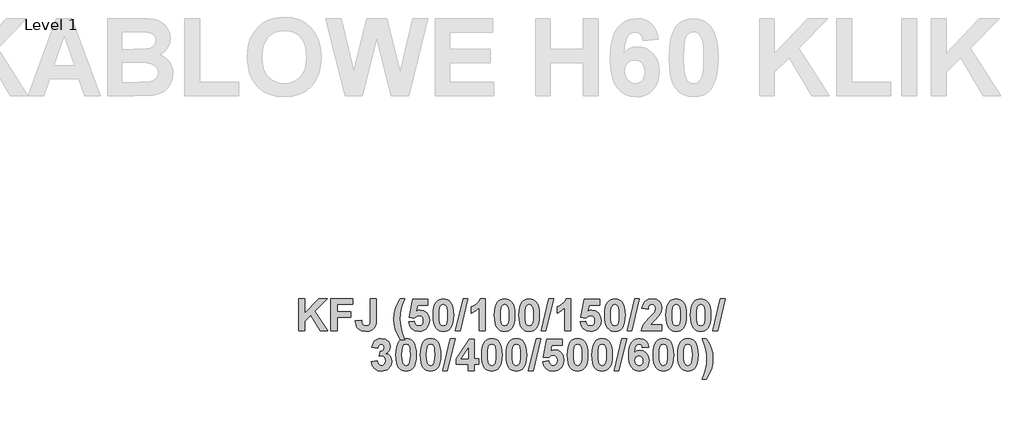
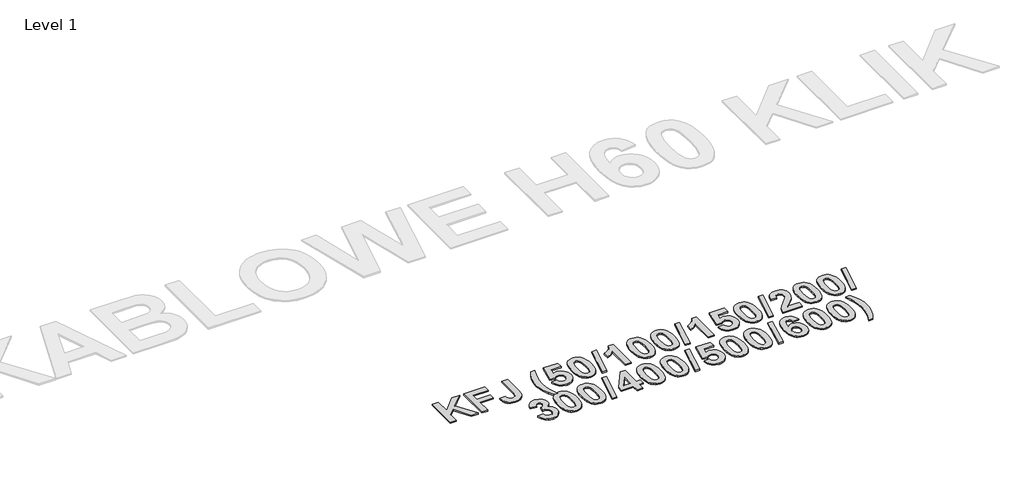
# One storey, part 12 of 42: 1 proxy.
"""IFC4 building model written with IfcOpenShell, lengths in millimetres."""

from ifc_helpers import new_model, si_unit, origin, origin_with_axes, place, context, project, spatial, polyline, outline, extrude, element, save

model = new_model("IFC4")

# Units and contexts
model_context = context("Model", 3, world=origin())
ifc_project = project(units=[si_unit("LENGTHUNIT", "METRE", prefix="MILLI")], contexts=[model_context])

# Site, building, storey
site = spatial("IfcSite", under=ifc_project)
building = spatial("IfcBuilding", under=site)
storey = spatial("IfcBuildingStorey", under=building, Name="Level 1", Elevation=0.0)

# Proxy
placement = place(None, origin())
element("IfcBuildingElementProxy", 1, Name="300mm Arial 2", ObjectType="300mm Arial 2", at=placement, inside=storey, context=model_context, shape_type="SweptSolid", body=[
    extrude(outline(polyline([(-23474.3228423, 4366.2760859), (-23474.3228423, 4621.3409359), (-23425.7390614, 4621.3409359), (-23425.7390614, 4505.0688143), (-23316.299034, 4621.3409359), (-23249.6228554, 4621.3409359), (-23346.157816, 4523.9203335), (-23245.574207, 4366.2760859), (-23302.381805, 4366.2760859), (-23377.7246216, 4491.9739671), (-23425.7390614, 4443.4534463), (-23425.7390614, 4366.2760859), (-23474.3228423, 4366.2760859)])), origin_with_axes(), (0.0, 0.0, 1.0), 10.0),
    extrude(outline(polyline([(-23219.2579923, 4366.2760859), (-23219.2579923, 4621.3409359), (-23045.1661106, 4621.3409359), (-23045.1661106, 4576.8058034), (-23170.6742114, 4576.8058034), (-23170.6742114, 4520.1247256), (-23061.3607042, 4520.1247256), (-23061.3607042, 4475.5895931), (-23170.6742114, 4475.5895931), (-23170.6742114, 4366.2760859), (-23219.2579923, 4366.2760859)])), origin_with_axes(), (0.0, 0.0, 1.0), 10.0),
    extrude(outline(polyline([(-22907.5120646, 4621.3409359), (-22858.9282836, 4621.3409359), (-22858.9282836, 4460.0908609), (-22860.3516366, 4432.0982527), (-22864.6216954, 4411.3805597), (-22875.3126576, 4391.358728), (-22892.2031127, 4375.7018455), (-22915.3879509, 4365.5960395), (-22944.9620624, 4362.2274375), (-22978.932753, 4367.6282712), (-22992.5969413, 4374.3793134), (-23004.0470251, 4383.8307724), (-23013.109039, 4395.8956656), (-23019.6090175, 4410.4870103), (-23024.9228685, 4447.2490542), (-22976.3390876, 4451.2977026), (-22974.1091679, 4432.6675939), (-22969.317213, 4420.4267584), (-22957.8987593, 4410.1786172), (-22941.7357957, 4406.7625701), (-22925.754705, 4409.2139001), (-22915.2614307, 4416.5678904), (-22909.4494061, 4431.6238017), (-22907.5120646, 4457.1808948), (-22907.5120646, 4621.3409359)])), origin_with_axes(), (0.0, 0.0, 1.0), 10.0),
    extrude(outline(polyline([(-22636.2526209, 4297.4490629), (-22668.6418082, 4297.4490629), (-22691.3126578, 4337.1210729), (-22707.8314596, 4378.327141), (-22717.9135431, 4419.6280993), (-22721.2742376, 4459.5847798), (-22717.162329, 4506.9824333), (-22704.8266034, 4551.7547913), (-22688.6320098, 4588.0344767), (-22668.6418082, 4621.3409359), (-22636.2526209, 4621.3409359), (-22653.8152149, 4574.1014328), (-22664.8778304, 4534.4847754), (-22670.7373001, 4497.6041188), (-22672.6904566, 4458.5726177), (-22668.0092069, 4401.92317), (-22655.1674002, 4346.8552256), (-22636.2526209, 4297.4490629)])), origin_with_axes(), (0.0, 0.0, 1.0), 10.0),
    extrude(outline(polyline([(-22603.8634336, 4438.0763351), (-22559.3283011, 4443.2004058), (-22555.1847625, 4428.1286795), (-22546.9293153, 4416.5678904), (-22535.8271622, 4409.2139001), (-22523.1435059, 4406.7625701), (-22508.9495139, 4409.364143), (-22497.1119618, 4417.1688617), (-22489.1174627, 4430.2083563), (-22486.4526297, 4448.5142568), (-22488.9276823, 4465.6735675), (-22496.3528402, 4477.9302179), (-22507.7475714, 4485.2842082), (-22522.1313438, 4487.7355383), (-22540.9512329, 4482.6747278), (-22557.6835377, 4467.4922962), (-22599.8147852, 4473.7550493), (-22571.4742463, 4617.2922875), (-22450.0147939, 4617.2922875), (-22450.0147939, 4568.7085066), (-22532.1897047, 4568.7085066), (-22541.9950251, 4522.3388302), (-22526.5121079, 4529.7877107), (-22510.68126, 4532.2706708), (-22482.5621316, 4526.5219064), (-22459.0609927, 4509.2756131), (-22443.1668847, 4482.8566007), (-22437.8688487, 4449.589679), (-22442.2812429, 4420.6639839), (-22455.5184254, 4394.9961856), (-22468.7358391, 4380.6598583), (-22484.2859701, 4370.4196245), (-22502.1688186, 4364.2754843), (-22522.3843843, 4362.2274375), (-22553.3897562, 4367.3673232), (-22578.0849301, 4382.7869802), (-22595.2995933, 4406.8890903), (-22603.8634336, 4438.0763351)])), origin_with_axes(), (0.0, 0.0, 1.0), 10.0),
    extrude(outline(polyline([(-22328.5553416, 4621.3409359), (-22311.4237072, 4619.6961725), (-22296.2768595, 4614.7618823), (-22283.1147984, 4606.5380652), (-22271.9375239, 4595.0247212), (-22261.2821455, 4576.8967398), (-22253.671161, 4553.6367802), (-22249.1045702, 4525.2448425), (-22247.5823733, 4491.7209266), (-22249.1124777, 4458.2286407), (-22253.702791, 4429.8050729), (-22261.3533132, 4406.4502232), (-22272.0640442, 4388.1640914), (-22283.185966, 4376.8168053), (-22296.3084896, 4368.711601), (-22311.4316147, 4363.8484784), (-22328.5553416, 4362.2274375), (-22345.8629182, 4364.0066287), (-22361.4110723, 4369.3442023), (-22375.1998041, 4378.2401583), (-22387.2291135, 4390.6944967), (-22396.9850119, 4407.7154258), (-22403.9535107, 4430.311154), (-22408.13461, 4458.4816813), (-22409.5283098, 4492.2270076), (-22407.9982054, 4525.5532356), (-22403.4078921, 4553.8581907), (-22395.7573699, 4577.1418728), (-22385.0466389, 4595.404282), (-22373.9247171, 4606.7515681), (-22360.8021936, 4614.8567724), (-22345.6790684, 4619.7198951), (-22328.5553416, 4621.3409359)]), holes=[polyline([(-22328.5553416, 4576.8058034), (-22344.7499352, 4571.4603223), (-22351.0759484, 4563.9877192), (-22355.7571981, 4552.2608724), (-22359.6476962, 4528.1113172), (-22360.9445289, 4491.7209266), (-22359.7900315, 4455.8128945), (-22356.3265393, 4433.2369351), (-22351.0996709, 4419.9839375), (-22344.655045, 4412.044791), (-22328.5553416, 4406.7625701), (-22312.3607479, 4412.1080512), (-22306.0347348, 4419.5806542), (-22301.353485, 4431.3075011), (-22297.462987, 4455.330536), (-22296.1661543, 4491.7209266), (-22297.3206517, 4527.5894211), (-22300.7841439, 4550.173288), (-22306.0110122, 4563.4658232), (-22312.4556381, 4571.4603223), (-22328.5553416, 4576.8058034)])]), origin_with_axes(), (0.0, 0.0, 1.0), 10.0),
    extrude(outline(polyline([(-22232.2734215, 4366.2760859), (-22171.5436953, 4621.3409359), (-22134.2202178, 4621.3409359), (-22194.9499439, 4366.2760859), (-22232.2734215, 4366.2760859)])), origin_with_axes(), (0.0, 0.0, 1.0), 10.0),
    extrude(outline(polyline([(-21996.5661717, 4366.2760859), (-22045.1499527, 4366.2760859), (-22045.1499527, 4548.5917848), (-22073.205821, 4524.7110851), (-22105.8796789, 4507.9787804), (-22105.8796789, 4556.5625613), (-22086.4113734, 4565.6482977), (-22065.3299346, 4580.3800008), (-22046.8737913, 4599.3975778), (-22035.2813722, 4621.3409359), (-21996.5661717, 4621.3409359), (-21996.5661717, 4366.2760859)])), origin_with_axes(), (0.0, 0.0, 1.0), 10.0),
    extrude(outline(polyline([(-21842.7175321, 4621.3409359), (-21825.5858977, 4619.6961725), (-21810.43905, 4614.7618823), (-21797.2769889, 4606.5380652), (-21786.0997144, 4595.0247212), (-21775.444336, 4576.8967398), (-21767.8333515, 4553.6367802), (-21763.2667607, 4525.2448425), (-21761.7445638, 4491.7209266), (-21763.2746682, 4458.2286407), (-21767.8649815, 4429.8050729), (-21775.5155037, 4406.4502232), (-21786.2262347, 4388.1640914), (-21797.3481565, 4376.8168053), (-21810.4706801, 4368.711601), (-21825.5938052, 4363.8484784), (-21842.7175321, 4362.2274375), (-21860.0251086, 4364.0066287), (-21875.5732628, 4369.3442023), (-21889.3619946, 4378.2401583), (-21901.391304, 4390.6944967), (-21911.1472024, 4407.7154258), (-21918.1157012, 4430.311154), (-21922.2968005, 4458.4816813), (-21923.6905003, 4492.2270076), (-21922.1603959, 4525.5532356), (-21917.5700826, 4553.8581907), (-21909.9195604, 4577.1418728), (-21899.2088294, 4595.404282), (-21888.0869076, 4606.7515681), (-21874.9643841, 4614.8567724), (-21859.8412589, 4619.7198951), (-21842.7175321, 4621.3409359)]), holes=[polyline([(-21842.7175321, 4576.8058034), (-21858.9121257, 4571.4603223), (-21865.2381389, 4563.9877192), (-21869.9193886, 4552.2608724), (-21873.8098867, 4528.1113172), (-21875.1067194, 4491.7209266), (-21873.952222, 4455.8128945), (-21870.4887298, 4433.2369351), (-21865.2618614, 4419.9839375), (-21858.8172355, 4412.044791), (-21842.7175321, 4406.7625701), (-21826.5229384, 4412.1080512), (-21820.1969253, 4419.5806542), (-21815.5156755, 4431.3075011), (-21811.6251775, 4455.330536), (-21810.3283448, 4491.7209266), (-21811.4828422, 4527.5894211), (-21814.9463344, 4550.173288), (-21820.1732027, 4563.4658232), (-21826.6178286, 4571.4603223), (-21842.7175321, 4576.8058034)])]), origin_with_axes(), (0.0, 0.0, 1.0), 10.0),
    extrude(outline(polyline([(-21648.3824083, 4621.3409359), (-21631.2507739, 4619.6961725), (-21616.1039262, 4614.7618823), (-21602.9418651, 4606.5380652), (-21591.7645906, 4595.0247212), (-21581.1092122, 4576.8967398), (-21573.4982277, 4553.6367802), (-21568.9316369, 4525.2448425), (-21567.40944, 4491.7209266), (-21568.9395444, 4458.2286407), (-21573.5298577, 4429.8050729), (-21581.1803799, 4406.4502232), (-21591.8911109, 4388.1640914), (-21603.0130327, 4376.8168053), (-21616.1355563, 4368.711601), (-21631.2586814, 4363.8484784), (-21648.3824083, 4362.2274375), (-21665.6899848, 4364.0066287), (-21681.238139, 4369.3442023), (-21695.0268708, 4378.2401583), (-21707.0561802, 4390.6944967), (-21716.8120786, 4407.7154258), (-21723.7805774, 4430.311154), (-21727.9616767, 4458.4816813), (-21729.3553765, 4492.2270076), (-21727.8252721, 4525.5532356), (-21723.2349588, 4553.8581907), (-21715.5844366, 4577.1418728), (-21704.8737056, 4595.404282), (-21693.7517838, 4606.7515681), (-21680.6292603, 4614.8567724), (-21665.5061351, 4619.7198951), (-21648.3824083, 4621.3409359)]), holes=[polyline([(-21648.3824083, 4576.8058034), (-21664.5770019, 4571.4603223), (-21670.9030151, 4563.9877192), (-21675.5842648, 4552.2608724), (-21679.4747629, 4528.1113172), (-21680.7715956, 4491.7209266), (-21679.6170982, 4455.8128945), (-21676.153606, 4433.2369351), (-21670.9267376, 4419.9839375), (-21664.4821117, 4412.044791), (-21648.3824083, 4406.7625701), (-21632.1878146, 4412.1080512), (-21625.8618015, 4419.5806542), (-21621.1805517, 4431.3075011), (-21617.2900537, 4455.330536), (-21615.993221, 4491.7209266), (-21617.1477184, 4527.5894211), (-21620.6112106, 4550.173288), (-21625.8380789, 4563.4658232), (-21632.2827048, 4571.4603223), (-21648.3824083, 4576.8058034)])]), origin_with_axes(), (0.0, 0.0, 1.0), 10.0),
    extrude(outline(polyline([(-21552.1004882, 4366.2760859), (-21491.370762, 4621.3409359), (-21454.0472845, 4621.3409359), (-21514.7770106, 4366.2760859), (-21552.1004882, 4366.2760859)])), origin_with_axes(), (0.0, 0.0, 1.0), 10.0),
    extrude(outline(polyline([(-21316.3932384, 4366.2760859), (-21364.9770194, 4366.2760859), (-21364.9770194, 4548.5917848), (-21393.0328877, 4524.7110851), (-21425.7067456, 4507.9787804), (-21425.7067456, 4556.5625613), (-21406.2384401, 4565.6482977), (-21385.1570013, 4580.3800008), (-21366.700858, 4599.3975778), (-21355.1084389, 4621.3409359), (-21316.3932384, 4621.3409359), (-21316.3932384, 4366.2760859)])), origin_with_axes(), (0.0, 0.0, 1.0), 10.0),
    extrude(outline(polyline([(-21243.517567, 4438.0763351), (-21198.9824345, 4443.2004058), (-21194.8388959, 4428.1286795), (-21186.5834487, 4416.5678904), (-21175.4812956, 4409.2139001), (-21162.7976393, 4406.7625701), (-21148.6036473, 4409.364143), (-21136.7660952, 4417.1688617), (-21128.7715961, 4430.2083563), (-21126.106763, 4448.5142568), (-21128.5818157, 4465.6735675), (-21136.0069736, 4477.9302179), (-21147.4017048, 4485.2842082), (-21161.7854772, 4487.7355383), (-21180.6053663, 4482.6747278), (-21197.3376711, 4467.4922962), (-21239.4689186, 4473.7550493), (-21211.1283797, 4617.2922875), (-21089.6689273, 4617.2922875), (-21089.6689273, 4568.7085066), (-21171.8438381, 4568.7085066), (-21181.6491585, 4522.3388302), (-21166.1662413, 4529.7877107), (-21150.3353934, 4532.2706708), (-21122.216265, 4526.5219064), (-21098.7151261, 4509.2756131), (-21082.8210181, 4482.8566007), (-21077.5229821, 4449.589679), (-21081.9353763, 4420.6639839), (-21095.1725588, 4394.9961856), (-21108.3899725, 4380.6598583), (-21123.9401035, 4370.4196245), (-21141.8229519, 4364.2754843), (-21162.0385177, 4362.2274375), (-21193.0438896, 4367.3673232), (-21217.7390634, 4382.7869802), (-21234.9537267, 4406.8890903), (-21243.517567, 4438.0763351)])), origin_with_axes(), (0.0, 0.0, 1.0), 10.0),
    extrude(outline(polyline([(-20968.209475, 4621.3409359), (-20951.0778406, 4619.6961725), (-20935.9309929, 4614.7618823), (-20922.7689318, 4606.5380652), (-20911.5916573, 4595.0247212), (-20900.9362789, 4576.8967398), (-20893.3252944, 4553.6367802), (-20888.7587036, 4525.2448425), (-20887.2365067, 4491.7209266), (-20888.7666111, 4458.2286407), (-20893.3569244, 4429.8050729), (-20901.0074466, 4406.4502232), (-20911.7181776, 4388.1640914), (-20922.8400994, 4376.8168053), (-20935.9626229, 4368.711601), (-20951.0857481, 4363.8484784), (-20968.209475, 4362.2274375), (-20985.5170515, 4364.0066287), (-21001.0652057, 4369.3442023), (-21014.8539375, 4378.2401583), (-21026.8832469, 4390.6944967), (-21036.6391453, 4407.7154258), (-21043.6076441, 4430.311154), (-21047.7887434, 4458.4816813), (-21049.1824432, 4492.2270076), (-21047.6523388, 4525.5532356), (-21043.0620255, 4553.8581907), (-21035.4115033, 4577.1418728), (-21024.7007723, 4595.404282), (-21013.5788505, 4606.7515681), (-21000.456327, 4614.8567724), (-20985.3332018, 4619.7198951), (-20968.209475, 4621.3409359)]), holes=[polyline([(-20968.209475, 4576.8058034), (-20984.4040686, 4571.4603223), (-20990.7300817, 4563.9877192), (-20995.4113315, 4552.2608724), (-20999.3018296, 4528.1113172), (-21000.5986623, 4491.7209266), (-20999.4441649, 4455.8128945), (-20995.9806727, 4433.2369351), (-20990.7538043, 4419.9839375), (-20984.3091784, 4412.044791), (-20968.209475, 4406.7625701), (-20952.0148813, 4412.1080512), (-20945.6888682, 4419.5806542), (-20941.0076184, 4431.3075011), (-20937.1171203, 4455.330536), (-20935.8202877, 4491.7209266), (-20936.9747851, 4527.5894211), (-20940.4382772, 4550.173288), (-20945.6651456, 4563.4658232), (-20952.1097715, 4571.4603223), (-20968.209475, 4576.8058034)])]), origin_with_axes(), (0.0, 0.0, 1.0), 10.0),
    extrude(outline(polyline([(-20871.9275549, 4366.2760859), (-20811.1978287, 4621.3409359), (-20773.8743512, 4621.3409359), (-20834.6040773, 4366.2760859), (-20871.9275549, 4366.2760859)])), origin_with_axes(), (0.0, 0.0, 1.0), 10.0),
    extrude(outline(polyline([(-20595.733821, 4414.8598669), (-20595.733821, 4366.2760859), (-20757.6797575, 4366.2760859), (-20752.5082418, 4390.7814793), (-20742.1810253, 4413.942595), (-20722.9973904, 4440.1243819), (-20691.2566195, 4473.6917891), (-20653.6801014, 4514.4313138), (-20646.6582268, 4529.1392943), (-20644.317602, 4543.6574945), (-20646.2865735, 4557.8040414), (-20652.1934883, 4568.2340556), (-20661.5638953, 4574.6628664), (-20673.9233435, 4576.8058034), (-20686.195809, 4574.6944965), (-20695.6848287, 4568.3605758), (-20702.074102, 4557.13981), (-20705.0473281, 4540.3679677), (-20753.6311091, 4544.7961769), (-20745.0277312, 4579.9450874), (-20737.4048854, 4593.1842468), (-20727.5679349, 4603.5332089), (-20702.9439288, 4616.8890042), (-20672.8479212, 4621.3409359), (-20640.7117745, 4616.3512931), (-20616.2933637, 4601.3823644), (-20600.8737067, 4578.9961854), (-20595.733821, 4551.7547913), (-20601.3639727, 4519.6186446), (-20619.2033298, 4487.6722782), (-20649.4100425, 4455.7891719), (-20677.1496102, 4428.1444945), (-20686.2590691, 4414.8598669), (-20595.733821, 4414.8598669)])), origin_with_axes(), (0.0, 0.0, 1.0), 10.0),
    extrude(outline(polyline([(-20482.3716655, 4621.3409359), (-20465.2400311, 4619.6961725), (-20450.0931834, 4614.7618823), (-20436.9311223, 4606.5380652), (-20425.7538478, 4595.0247212), (-20415.0984694, 4576.8967398), (-20407.4874849, 4553.6367802), (-20402.9208941, 4525.2448425), (-20401.3986972, 4491.7209266), (-20402.9288016, 4458.2286407), (-20407.5191149, 4429.8050729), (-20415.1696371, 4406.4502232), (-20425.8803681, 4388.1640914), (-20437.0022899, 4376.8168053), (-20450.1248134, 4368.711601), (-20465.2479386, 4363.8484784), (-20482.3716655, 4362.2274375), (-20499.679242, 4364.0066287), (-20515.2273962, 4369.3442023), (-20529.016128, 4378.2401583), (-20541.0454374, 4390.6944967), (-20550.8013358, 4407.7154258), (-20557.7698346, 4430.311154), (-20561.9509339, 4458.4816813), (-20563.3446337, 4492.2270076), (-20561.8145293, 4525.5532356), (-20557.224216, 4553.8581907), (-20549.5736938, 4577.1418728), (-20538.8629628, 4595.404282), (-20527.741041, 4606.7515681), (-20514.6185175, 4614.8567724), (-20499.4953923, 4619.7198951), (-20482.3716655, 4621.3409359)]), holes=[polyline([(-20482.3716655, 4576.8058034), (-20498.5662591, 4571.4603223), (-20504.8922722, 4563.9877192), (-20509.573522, 4552.2608724), (-20513.4640201, 4528.1113172), (-20514.7608528, 4491.7209266), (-20513.6063554, 4455.8128945), (-20510.1428632, 4433.2369351), (-20504.9159948, 4419.9839375), (-20498.4713689, 4412.044791), (-20482.3716655, 4406.7625701), (-20466.1770718, 4412.1080512), (-20459.8510587, 4419.5806542), (-20455.1698089, 4431.3075011), (-20451.2793108, 4455.330536), (-20449.9824782, 4491.7209266), (-20451.1369755, 4527.5894211), (-20454.6004677, 4550.173288), (-20459.8273361, 4563.4658232), (-20466.271962, 4571.4603223), (-20482.3716655, 4576.8058034)])]), origin_with_axes(), (0.0, 0.0, 1.0), 10.0),
    extrude(outline(polyline([(-20288.0365416, 4621.3409359), (-20270.9049073, 4619.6961725), (-20255.7580596, 4614.7618823), (-20242.5959985, 4606.5380652), (-20231.418724, 4595.0247212), (-20220.7633456, 4576.8967398), (-20213.1523611, 4553.6367802), (-20208.5857703, 4525.2448425), (-20207.0635734, 4491.7209266), (-20208.5936778, 4458.2286407), (-20213.1839911, 4429.8050729), (-20220.8345133, 4406.4502232), (-20231.5452443, 4388.1640914), (-20242.6671661, 4376.8168053), (-20255.7896896, 4368.711601), (-20270.9128148, 4363.8484784), (-20288.0365416, 4362.2274375), (-20305.3441182, 4364.0066287), (-20320.8922724, 4369.3442023), (-20334.6810042, 4378.2401583), (-20346.7103136, 4390.6944967), (-20356.466212, 4407.7154258), (-20363.4347108, 4430.311154), (-20367.6158101, 4458.4816813), (-20369.0095099, 4492.2270076), (-20367.4794055, 4525.5532356), (-20362.8890922, 4553.8581907), (-20355.23857, 4577.1418728), (-20344.527839, 4595.404282), (-20333.4059172, 4606.7515681), (-20320.2833937, 4614.8567724), (-20305.1602685, 4619.7198951), (-20288.0365416, 4621.3409359)]), holes=[polyline([(-20288.0365416, 4576.8058034), (-20304.2311353, 4571.4603223), (-20310.5571484, 4563.9877192), (-20315.2383982, 4552.2608724), (-20319.1288963, 4528.1113172), (-20320.4257289, 4491.7209266), (-20319.2712316, 4455.8128945), (-20315.8077394, 4433.2369351), (-20310.580871, 4419.9839375), (-20304.1362451, 4412.044791), (-20288.0365416, 4406.7625701), (-20271.841948, 4412.1080512), (-20265.5159349, 4419.5806542), (-20260.8346851, 4431.3075011), (-20256.944187, 4455.330536), (-20255.6473543, 4491.7209266), (-20256.8018517, 4527.5894211), (-20260.2653439, 4550.173288), (-20265.4922123, 4563.4658232), (-20271.9368382, 4571.4603223), (-20288.0365416, 4576.8058034)])]), origin_with_axes(), (0.0, 0.0, 1.0), 10.0),
    extrude(outline(polyline([(-20191.7546216, 4366.2760859), (-20131.0248954, 4621.3409359), (-20093.7014178, 4621.3409359), (-20154.431144, 4366.2760859), (-20191.7546216, 4366.2760859)])), origin_with_axes(), (0.0, 0.0, 1.0), 10.0),
    extrude(outline(polyline([(-22899.4147677, 4122.7918795), (-22850.8309868, 4128.4220312), (-22847.082824, 4112.7967787), (-22839.886984, 4101.3466949), (-22830.0342186, 4094.3248203), (-22818.3152792, 4091.9841955), (-22805.7423281, 4094.6648435), (-22795.3518515, 4102.7067877), (-22788.377422, 4115.2876464), (-22786.0526122, 4131.5850377), (-22788.1797341, 4147.0046948), (-22794.5610999, 4158.8501544), (-22804.010582, 4166.3939251), (-22815.342053, 4168.9085153), (-22834.6363931, 4165.3026878), (-22830.3979643, 4205.346351), (-22816.5677181, 4207.0860046), (-22806.4540046, 4213.3171276), (-22800.2624192, 4223.1857081), (-22798.1985574, 4235.8377344), (-22799.7405231, 4246.5840492), (-22804.3664202, 4254.910664), (-22811.5543527, 4260.2482376), (-22820.7824243, 4262.0274288), (-22830.1686463, 4259.963567), (-22838.0840703, 4253.7719816), (-22843.8486498, 4243.610823), (-22846.7823384, 4229.6382415), (-22895.3661193, 4236.9131566), (-22889.8071353, 4258.6509193), (-22881.9866015, 4275.5334668), (-22871.2640092, 4288.4464412), (-22856.9988496, 4298.2754841), (-22840.0055968, 4304.490792), (-22821.098725, 4306.5625613), (-22790.4491913, 4300.8217044), (-22777.6627372, 4293.6456332), (-22766.5684917, 4283.5991336), (-22753.8532053, 4263.577302), (-22749.6147765, 4241.0883253), (-22751.8881874, 4225.1428184), (-22758.7084204, 4210.8974275), (-22770.0754752, 4198.3521527), (-22785.989352, 4187.5069939), (-22766.1256708, 4179.9553157), (-22750.6901987, 4166.6627806), (-22740.7741731, 4148.799701), (-22737.4688312, 4127.5363893), (-22743.3283009, 4096.7682429), (-22760.9067099, 4070.8869416), (-22773.3432564, 4060.6328697), (-22787.2150171, 4053.3085326), (-22819.2641812, 4047.4490629), (-22849.5262466, 4052.6601162), (-22874.1423452, 4068.2932762), (-22891.3570085, 4092.3400337), (-22899.4147677, 4122.7918795)])), origin_with_axes(), (0.0, 0.0, 1.0), 10.0),
    extrude(outline(polyline([(-22624.1066757, 4306.5625613), (-22606.9750413, 4304.9177979), (-22591.8281936, 4299.9835076), (-22578.6661325, 4291.7596906), (-22567.488858, 4280.2463466), (-22556.8334796, 4262.1183652), (-22549.2224951, 4238.8584056), (-22544.6559043, 4210.4664679), (-22543.1337074, 4176.942552), (-22544.6638119, 4143.4502661), (-22549.2541251, 4115.0266983), (-22556.9046473, 4091.6718486), (-22567.6153783, 4073.3857168), (-22578.7373002, 4062.0384307), (-22591.8598237, 4053.9332264), (-22606.9829488, 4049.0701038), (-22624.1066757, 4047.4490629), (-22641.4142523, 4049.2282541), (-22656.9624064, 4054.5658277), (-22670.7511382, 4063.4617837), (-22682.7804476, 4075.9161221), (-22692.536346, 4092.9370512), (-22699.5048448, 4115.5327794), (-22703.6859442, 4143.7033067), (-22705.0796439, 4177.448633), (-22703.5495395, 4210.774861), (-22698.9592262, 4239.0798161), (-22691.3087041, 4262.3634982), (-22680.5979731, 4280.6259074), (-22669.4760512, 4291.9731935), (-22656.3535277, 4300.0783978), (-22641.2304025, 4304.9415205), (-22624.1066757, 4306.5625613)]), holes=[polyline([(-22624.1066757, 4262.0274288), (-22640.3012693, 4256.6819477), (-22646.6272825, 4249.2093446), (-22651.3085322, 4237.4824978), (-22655.1990303, 4213.3329426), (-22656.495863, 4176.942552), (-22655.3413656, 4141.0345199), (-22651.8778734, 4118.4585605), (-22646.651005, 4105.2055629), (-22640.2063791, 4097.2664164), (-22624.1066757, 4091.9841955), (-22607.912082, 4097.3296766), (-22601.5860689, 4104.8022796), (-22596.9048192, 4116.5291265), (-22593.0143211, 4140.5521614), (-22591.7174884, 4176.942552), (-22592.8719858, 4212.8110465), (-22596.335478, 4235.3949134), (-22601.5623463, 4248.6874486), (-22608.0069722, 4256.6819477), (-22624.1066757, 4262.0274288)])]), origin_with_axes(), (0.0, 0.0, 1.0), 10.0),
    extrude(outline(polyline([(-22429.7715519, 4306.5625613), (-22412.6399175, 4304.9177979), (-22397.4930698, 4299.9835076), (-22384.3310087, 4291.7596906), (-22373.1537342, 4280.2463466), (-22362.4983558, 4262.1183652), (-22354.8873713, 4238.8584056), (-22350.3207805, 4210.4664679), (-22348.7985836, 4176.942552), (-22350.3286881, 4143.4502661), (-22354.9190013, 4115.0266983), (-22362.5695235, 4091.6718486), (-22373.2802545, 4073.3857168), (-22384.4021764, 4062.0384307), (-22397.5246999, 4053.9332264), (-22412.647825, 4049.0701038), (-22429.7715519, 4047.4490629), (-22447.0791285, 4049.2282541), (-22462.6272826, 4054.5658277), (-22476.4160144, 4063.4617837), (-22488.4453238, 4075.9161221), (-22498.2012222, 4092.9370512), (-22505.169721, 4115.5327794), (-22509.3508204, 4143.7033067), (-22510.7445201, 4177.448633), (-22509.2144157, 4210.774861), (-22504.6241024, 4239.0798161), (-22496.9735803, 4262.3634982), (-22486.2628493, 4280.6259074), (-22475.1409274, 4291.9731935), (-22462.0184039, 4300.0783978), (-22446.8952787, 4304.9415205), (-22429.7715519, 4306.5625613)]), holes=[polyline([(-22429.7715519, 4262.0274288), (-22445.9661455, 4256.6819477), (-22452.2921587, 4249.2093446), (-22456.9734084, 4237.4824978), (-22460.8639065, 4213.3329426), (-22462.1607392, 4176.942552), (-22461.0062418, 4141.0345199), (-22457.5427496, 4118.4585605), (-22452.3158812, 4105.2055629), (-22445.8712553, 4097.2664164), (-22429.7715519, 4091.9841955), (-22413.5769582, 4097.3296766), (-22407.2509451, 4104.8022796), (-22402.5696954, 4116.5291265), (-22398.6791973, 4140.5521614), (-22397.3823646, 4176.942552), (-22398.536862, 4212.8110465), (-22402.0003542, 4235.3949134), (-22407.2272225, 4248.6874486), (-22413.6718484, 4256.6819477), (-22429.7715519, 4262.0274288)])]), origin_with_axes(), (0.0, 0.0, 1.0), 10.0),
    extrude(outline(polyline([(-22333.4896318, 4051.4977113), (-22272.7599056, 4306.5625613), (-22235.4364281, 4306.5625613), (-22296.1661543, 4051.4977113), (-22333.4896318, 4051.4977113)])), origin_with_axes(), (0.0, 0.0, 1.0), 10.0),
    extrude(outline(polyline([(-22130.1715693, 4051.4977113), (-22130.1715693, 4104.1301407), (-22227.3391313, 4104.1301407), (-22227.3391313, 4144.4268444), (-22123.7190359, 4302.5139129), (-22081.5877884, 4302.5139129), (-22081.5877884, 4144.6166248), (-22049.1986011, 4144.6166248), (-22049.1986011, 4104.1301407), (-22081.5877884, 4104.1301407), (-22081.5877884, 4051.4977113), (-22130.1715693, 4051.4977113)]), holes=[polyline([(-22130.1715693, 4144.6166248), (-22130.1715693, 4227.487397), (-22184.4487621, 4144.6166248), (-22130.1715693, 4144.6166248)])]), origin_with_axes(), (0.0, 0.0, 1.0), 10.0),
    extrude(outline(polyline([(-21943.9337424, 4306.5625613), (-21926.802108, 4304.9177979), (-21911.6552603, 4299.9835076), (-21898.4931992, 4291.7596906), (-21887.3159247, 4280.2463466), (-21876.6605463, 4262.1183652), (-21869.0495618, 4238.8584056), (-21864.482971, 4210.4664679), (-21862.9607741, 4176.942552), (-21864.4908786, 4143.4502661), (-21869.0811918, 4115.0266983), (-21876.731714, 4091.6718486), (-21887.442445, 4073.3857168), (-21898.5643669, 4062.0384307), (-21911.6868904, 4053.9332264), (-21926.8100155, 4049.0701038), (-21943.9337424, 4047.4490629), (-21961.241319, 4049.2282541), (-21976.7894731, 4054.5658277), (-21990.5782049, 4063.4617837), (-22002.6075143, 4075.9161221), (-22012.3634127, 4092.9370512), (-22019.3319115, 4115.5327794), (-22023.5130109, 4143.7033067), (-22024.9067106, 4177.448633), (-22023.3766062, 4210.774861), (-22018.7862929, 4239.0798161), (-22011.1357708, 4262.3634982), (-22000.4250398, 4280.6259074), (-21989.3031179, 4291.9731935), (-21976.1805944, 4300.0783978), (-21961.0574692, 4304.9415205), (-21943.9337424, 4306.5625613)]), holes=[polyline([(-21943.9337424, 4262.0274288), (-21960.128336, 4256.6819477), (-21966.4543492, 4249.2093446), (-21971.1355989, 4237.4824978), (-21975.026097, 4213.3329426), (-21976.3229297, 4176.942552), (-21975.1684323, 4141.0345199), (-21971.7049401, 4118.4585605), (-21966.4780717, 4105.2055629), (-21960.0334458, 4097.2664164), (-21943.9337424, 4091.9841955), (-21927.7391487, 4097.3296766), (-21921.4131356, 4104.8022796), (-21916.7318859, 4116.5291265), (-21912.8413878, 4140.5521614), (-21911.5445551, 4176.942552), (-21912.6990525, 4212.8110465), (-21916.1625447, 4235.3949134), (-21921.389413, 4248.6874486), (-21927.8340389, 4256.6819477), (-21943.9337424, 4262.0274288)])]), origin_with_axes(), (0.0, 0.0, 1.0), 10.0),
    extrude(outline(polyline([(-21749.5986186, 4306.5625613), (-21732.4669842, 4304.9177979), (-21717.3201365, 4299.9835076), (-21704.1580754, 4291.7596906), (-21692.9808009, 4280.2463466), (-21682.3254225, 4262.1183652), (-21674.714438, 4238.8584056), (-21670.1478472, 4210.4664679), (-21668.6256503, 4176.942552), (-21670.1557548, 4143.4502661), (-21674.746068, 4115.0266983), (-21682.3965902, 4091.6718486), (-21693.1073212, 4073.3857168), (-21704.2292431, 4062.0384307), (-21717.3517666, 4053.9332264), (-21732.4748917, 4049.0701038), (-21749.5986186, 4047.4490629), (-21766.9061952, 4049.2282541), (-21782.4543493, 4054.5658277), (-21796.2430811, 4063.4617837), (-21808.2723905, 4075.9161221), (-21818.0282889, 4092.9370512), (-21824.9967877, 4115.5327794), (-21829.1778871, 4143.7033067), (-21830.5715868, 4177.448633), (-21829.0414824, 4210.774861), (-21824.4511691, 4239.0798161), (-21816.800647, 4262.3634982), (-21806.089916, 4280.6259074), (-21794.9679941, 4291.9731935), (-21781.8454706, 4300.0783978), (-21766.7223454, 4304.9415205), (-21749.5986186, 4306.5625613)]), holes=[polyline([(-21749.5986186, 4262.0274288), (-21765.7932122, 4256.6819477), (-21772.1192254, 4249.2093446), (-21776.8004751, 4237.4824978), (-21780.6909732, 4213.3329426), (-21781.9878059, 4176.942552), (-21780.8333085, 4141.0345199), (-21777.3698163, 4118.4585605), (-21772.1429479, 4105.2055629), (-21765.698322, 4097.2664164), (-21749.5986186, 4091.9841955), (-21733.4040249, 4097.3296766), (-21727.0780118, 4104.8022796), (-21722.3967621, 4116.5291265), (-21718.506264, 4140.5521614), (-21717.2094313, 4176.942552), (-21718.3639287, 4212.8110465), (-21721.8274209, 4235.3949134), (-21727.0542892, 4248.6874486), (-21733.4989151, 4256.6819477), (-21749.5986186, 4262.0274288)])]), origin_with_axes(), (0.0, 0.0, 1.0), 10.0),
    extrude(outline(polyline([(-21653.3166985, 4051.4977113), (-21592.5869723, 4306.5625613), (-21555.2634948, 4306.5625613), (-21615.993221, 4051.4977113), (-21653.3166985, 4051.4977113)])), origin_with_axes(), (0.0, 0.0, 1.0), 10.0),
    extrude(outline(polyline([(-21539.0689011, 4123.2979605), (-21494.5337686, 4128.4220312), (-21490.39023, 4113.3503049), (-21482.1347828, 4101.7895158), (-21471.0326298, 4094.4355255), (-21458.3489734, 4091.9841955), (-21444.1549814, 4094.5857684), (-21432.3174293, 4102.3904871), (-21424.3229302, 4115.4299817), (-21421.6580972, 4133.7358822), (-21424.1331498, 4150.8951929), (-21431.5583077, 4163.1518433), (-21442.9530389, 4170.5058336), (-21457.3368113, 4172.9571637), (-21476.1567004, 4167.8963532), (-21492.8890052, 4152.7139216), (-21535.0202527, 4158.9766747), (-21506.6797138, 4302.5139129), (-21385.2202614, 4302.5139129), (-21385.2202614, 4253.930132), (-21467.3951722, 4253.930132), (-21477.2004926, 4207.5604556), (-21461.7175754, 4215.0093361), (-21445.8867275, 4217.4922962), (-21417.7675991, 4211.7435318), (-21394.2664602, 4194.4972385), (-21378.3723522, 4168.0782261), (-21373.0743162, 4134.8113044), (-21377.4867104, 4105.8856093), (-21390.7238929, 4080.217811), (-21403.9413066, 4065.8814837), (-21419.4914377, 4055.6412499), (-21437.3742861, 4049.4971097), (-21457.5898518, 4047.4490629), (-21488.5952237, 4052.5889486), (-21513.2903976, 4068.0086056), (-21530.5050608, 4092.1107157), (-21539.0689011, 4123.2979605)])), origin_with_axes(), (0.0, 0.0, 1.0), 10.0),
    extrude(outline(polyline([(-21263.7608091, 4306.5625613), (-21246.6291747, 4304.9177979), (-21231.482327, 4299.9835076), (-21218.3202659, 4291.7596906), (-21207.1429914, 4280.2463466), (-21196.487613, 4262.1183652), (-21188.8766285, 4238.8584056), (-21184.3100377, 4210.4664679), (-21182.7878408, 4176.942552), (-21184.3179452, 4143.4502661), (-21188.9082585, 4115.0266983), (-21196.5587807, 4091.6718486), (-21207.2695117, 4073.3857168), (-21218.3914335, 4062.0384307), (-21231.5139571, 4053.9332264), (-21246.6370822, 4049.0701038), (-21263.7608091, 4047.4490629), (-21281.0683857, 4049.2282541), (-21296.6165398, 4054.5658277), (-21310.4052716, 4063.4617837), (-21322.434581, 4075.9161221), (-21332.1904794, 4092.9370512), (-21339.1589782, 4115.5327794), (-21343.3400775, 4143.7033067), (-21344.7337773, 4177.448633), (-21343.2036729, 4210.774861), (-21338.6133596, 4239.0798161), (-21330.9628375, 4262.3634982), (-21320.2521064, 4280.6259074), (-21309.1301846, 4291.9731935), (-21296.0076611, 4300.0783978), (-21280.8845359, 4304.9415205), (-21263.7608091, 4306.5625613)]), holes=[polyline([(-21263.7608091, 4262.0274288), (-21279.9554027, 4256.6819477), (-21286.2814159, 4249.2093446), (-21290.9626656, 4237.4824978), (-21294.8531637, 4213.3329426), (-21296.1499964, 4176.942552), (-21294.995499, 4141.0345199), (-21291.5320068, 4118.4585605), (-21286.3051384, 4105.2055629), (-21279.8605125, 4097.2664164), (-21263.7608091, 4091.9841955), (-21247.5662154, 4097.3296766), (-21241.2402023, 4104.8022796), (-21236.5589525, 4116.5291265), (-21232.6684545, 4140.5521614), (-21231.3716218, 4176.942552), (-21232.5261192, 4212.8110465), (-21235.9896114, 4235.3949134), (-21241.2164797, 4248.6874486), (-21247.6611056, 4256.6819477), (-21263.7608091, 4262.0274288)])]), origin_with_axes(), (0.0, 0.0, 1.0), 10.0),
    extrude(outline(polyline([(-21069.4256853, 4306.5625613), (-21052.2940509, 4304.9177979), (-21037.1472032, 4299.9835076), (-21023.9851421, 4291.7596906), (-21012.8078676, 4280.2463466), (-21002.1524892, 4262.1183652), (-20994.5415047, 4238.8584056), (-20989.9749139, 4210.4664679), (-20988.452717, 4176.942552), (-20989.9828214, 4143.4502661), (-20994.5731347, 4115.0266983), (-21002.2236569, 4091.6718486), (-21012.9343879, 4073.3857168), (-21024.0563097, 4062.0384307), (-21037.1788333, 4053.9332264), (-21052.3019584, 4049.0701038), (-21069.4256853, 4047.4490629), (-21086.7332619, 4049.2282541), (-21102.281416, 4054.5658277), (-21116.0701478, 4063.4617837), (-21128.0994572, 4075.9161221), (-21137.8553556, 4092.9370512), (-21144.8238544, 4115.5327794), (-21149.0049537, 4143.7033067), (-21150.3986535, 4177.448633), (-21148.8685491, 4210.774861), (-21144.2782358, 4239.0798161), (-21136.6277137, 4262.3634982), (-21125.9169826, 4280.6259074), (-21114.7950608, 4291.9731935), (-21101.6725373, 4300.0783978), (-21086.5494121, 4304.9415205), (-21069.4256853, 4306.5625613)]), holes=[polyline([(-21069.4256853, 4262.0274288), (-21085.6202789, 4256.6819477), (-21091.9462921, 4249.2093446), (-21096.6275418, 4237.4824978), (-21100.5180399, 4213.3329426), (-21101.8148726, 4176.942552), (-21100.6603752, 4141.0345199), (-21097.196883, 4118.4585605), (-21091.9700146, 4105.2055629), (-21085.5253887, 4097.2664164), (-21069.4256853, 4091.9841955), (-21053.2310916, 4097.3296766), (-21046.9050785, 4104.8022796), (-21042.2238287, 4116.5291265), (-21038.3333307, 4140.5521614), (-21037.036498, 4176.942552), (-21038.1909954, 4212.8110465), (-21041.6544876, 4235.3949134), (-21046.8813559, 4248.6874486), (-21053.3259818, 4256.6819477), (-21069.4256853, 4262.0274288)])]), origin_with_axes(), (0.0, 0.0, 1.0), 10.0),
    extrude(outline(polyline([(-20973.1437652, 4051.4977113), (-20912.414039, 4306.5625613), (-20875.0905615, 4306.5625613), (-20935.8202877, 4051.4977113), (-20973.1437652, 4051.4977113)])), origin_with_axes(), (0.0, 0.0, 1.0), 10.0),
    extrude(outline(polyline([(-20700.9986797, 4238.8742207), (-20749.5824607, 4233.6868899), (-20752.5556869, 4246.2835636), (-20758.1858386, 4255.1004444), (-20766.1882452, 4260.2956827), (-20776.2782361, 4262.0274288), (-20789.8791644, 4258.6667343), (-20801.2027279, 4248.5846508), (-20809.5056202, 4227.7483451), (-20814.0445346, 4192.1249835), (-20794.022703, 4208.1139818), (-20769.6359223, 4213.4436478), (-20741.809372, 4207.750236), (-20718.3003257, 4190.6700005), (-20702.2876049, 4164.5910113), (-20696.9500313, 4131.9013384), (-20702.4062177, 4097.4641043), (-20709.2264506, 4083.0744013), (-20718.7747767, 4070.570641), (-20730.4660397, 4060.4549506), (-20743.7150835, 4053.2294574), (-20774.8865133, 4047.4490629), (-20792.4174772, 4049.3152368), (-20808.3194927, 4054.9137584), (-20822.5925599, 4064.2446278), (-20835.2366787, 4077.307845), (-20845.5876177, 4094.6213522), (-20852.9811455, 4116.7030918), (-20857.4172622, 4143.5530639), (-20858.8959678, 4175.1712683), (-20857.3520252, 4207.6237157), (-20852.7201975, 4235.205133), (-20845.0004846, 4257.9155202), (-20834.1928865, 4275.7548773), (-20820.9181433, 4289.2332391), (-20805.796995, 4298.8606403), (-20788.8294416, 4304.6370811), (-20770.0154831, 4306.5625613), (-20744.6956155, 4302.2292423), (-20724.1518878, 4289.2292853), (-20709.2857569, 4267.9738811), (-20700.9986797, 4238.8742207)]), holes=[polyline([(-20810.3121869, 4132.9767606), (-20807.6868914, 4115.5565019), (-20799.811005, 4102.6435276), (-20788.5665167, 4094.6490285), (-20775.8354152, 4091.9841955), (-20763.9425105, 4094.16667), (-20754.2004503, 4100.7140936), (-20747.7004718, 4112.2432526), (-20745.5338123, 4129.3709331), (-20747.8665296, 4147.1233075), (-20754.8646817, 4159.3878655), (-20765.357956, 4166.5283528), (-20778.1760401, 4168.9085153), (-20790.6145634, 4166.6311506), (-20800.9813175, 4159.7990564), (-20807.9794695, 4148.538753), (-20810.3121869, 4132.9767606)])]), origin_with_axes(), (0.0, 0.0, 1.0), 10.0),
    extrude(outline(polyline([(-20583.5878758, 4306.5625613), (-20566.4562414, 4304.9177979), (-20551.3093937, 4299.9835076), (-20538.1473326, 4291.7596906), (-20526.9700581, 4280.2463466), (-20516.3146797, 4262.1183652), (-20508.7036952, 4238.8584056), (-20504.1371044, 4210.4664679), (-20502.6149075, 4176.942552), (-20504.1450119, 4143.4502661), (-20508.7353252, 4115.0266983), (-20516.3858474, 4091.6718486), (-20527.0965784, 4073.3857168), (-20538.2185002, 4062.0384307), (-20551.3410238, 4053.9332264), (-20566.4641489, 4049.0701038), (-20583.5878758, 4047.4490629), (-20600.8954524, 4049.2282541), (-20616.4436065, 4054.5658277), (-20630.2323383, 4063.4617837), (-20642.2616477, 4075.9161221), (-20652.0175461, 4092.9370512), (-20658.9860449, 4115.5327794), (-20663.1671442, 4143.7033067), (-20664.560844, 4177.448633), (-20663.0307396, 4210.774861), (-20658.4404263, 4239.0798161), (-20650.7899042, 4262.3634982), (-20640.0791731, 4280.6259074), (-20628.9572513, 4291.9731935), (-20615.8347278, 4300.0783978), (-20600.7116026, 4304.9415205), (-20583.5878758, 4306.5625613)]), holes=[polyline([(-20583.5878758, 4262.0274288), (-20599.7824694, 4256.6819477), (-20606.1084826, 4249.2093446), (-20610.7897323, 4237.4824978), (-20614.6802304, 4213.3329426), (-20615.9770631, 4176.942552), (-20614.8225657, 4141.0345199), (-20611.3590735, 4118.4585605), (-20606.1322051, 4105.2055629), (-20599.6875792, 4097.2664164), (-20583.5878758, 4091.9841955), (-20567.3932821, 4097.3296766), (-20561.067269, 4104.8022796), (-20556.3860192, 4116.5291265), (-20552.4955212, 4140.5521614), (-20551.1986885, 4176.942552), (-20552.3531859, 4212.8110465), (-20555.8166781, 4235.3949134), (-20561.0435464, 4248.6874486), (-20567.4881723, 4256.6819477), (-20583.5878758, 4262.0274288)])]), origin_with_axes(), (0.0, 0.0, 1.0), 10.0),
    extrude(outline(polyline([(-20389.252752, 4306.5625613), (-20372.1211176, 4304.9177979), (-20356.9742699, 4299.9835076), (-20343.8122088, 4291.7596906), (-20332.6349343, 4280.2463466), (-20321.9795559, 4262.1183652), (-20314.3685714, 4238.8584056), (-20309.8019806, 4210.4664679), (-20308.2797837, 4176.942552), (-20309.8098881, 4143.4502661), (-20314.4002014, 4115.0266983), (-20322.0507236, 4091.6718486), (-20332.7614546, 4073.3857168), (-20343.8833764, 4062.0384307), (-20357.0059, 4053.9332264), (-20372.1290251, 4049.0701038), (-20389.252752, 4047.4490629), (-20406.5603286, 4049.2282541), (-20422.1084827, 4054.5658277), (-20435.8972145, 4063.4617837), (-20447.9265239, 4075.9161221), (-20457.6824223, 4092.9370512), (-20464.6509211, 4115.5327794), (-20468.8320204, 4143.7033067), (-20470.2257202, 4177.448633), (-20468.6956158, 4210.774861), (-20464.1053025, 4239.0798161), (-20456.4547803, 4262.3634982), (-20445.7440493, 4280.6259074), (-20434.6221275, 4291.9731935), (-20421.499604, 4300.0783978), (-20406.3764788, 4304.9415205), (-20389.252752, 4306.5625613)]), holes=[polyline([(-20389.252752, 4262.0274288), (-20405.4473456, 4256.6819477), (-20411.7733588, 4249.2093446), (-20416.4546085, 4237.4824978), (-20420.3451066, 4213.3329426), (-20421.6419393, 4176.942552), (-20420.4874419, 4141.0345199), (-20417.0239497, 4118.4585605), (-20411.7970813, 4105.2055629), (-20405.3524554, 4097.2664164), (-20389.252752, 4091.9841955), (-20373.0581583, 4097.3296766), (-20366.7321452, 4104.8022796), (-20362.0508954, 4116.5291265), (-20358.1603974, 4140.5521614), (-20356.8635647, 4176.942552), (-20358.0180621, 4212.8110465), (-20361.4815543, 4235.3949134), (-20366.7084226, 4248.6874486), (-20373.1530485, 4256.6819477), (-20389.252752, 4262.0274288)])]), origin_with_axes(), (0.0, 0.0, 1.0), 10.0),
    extrude(outline(polyline([(-20275.8905964, 3982.6706883), (-20257.893089, 4028.6608039), (-20248.2142889, 4065.5730906), (-20241.6036052, 4105.2688231), (-20239.4527607, 4143.7942431), (-20241.3980097, 4182.8257442), (-20247.2337569, 4219.7064008), (-20258.2884648, 4259.3230582), (-20275.8905964, 4306.5625613), (-20243.5014091, 4306.5625613), (-20221.3050105, 4269.2232687), (-20204.6913185, 4229.7015016), (-20194.3245644, 4188.8038266), (-20190.8689797, 4147.3368105), (-20193.6366105, 4110.8357146), (-20201.9395028, 4071.8042135), (-20218.6559925, 4026.9369653), (-20243.5014091, 3982.6706883), (-20275.8905964, 3982.6706883)])), origin_with_axes(), (0.0, 0.0, 1.0), 10.0),
])

save(model, "model.ifc")
